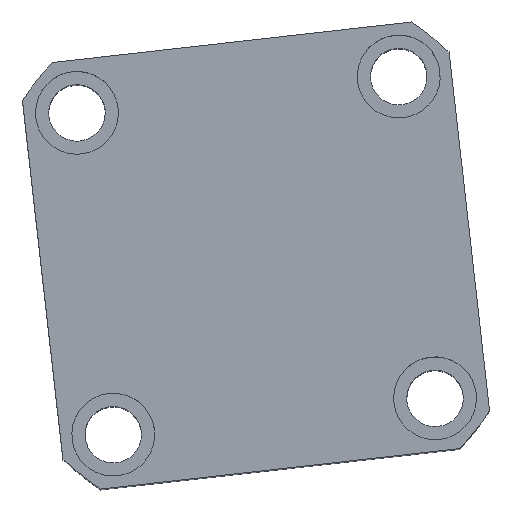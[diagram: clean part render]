
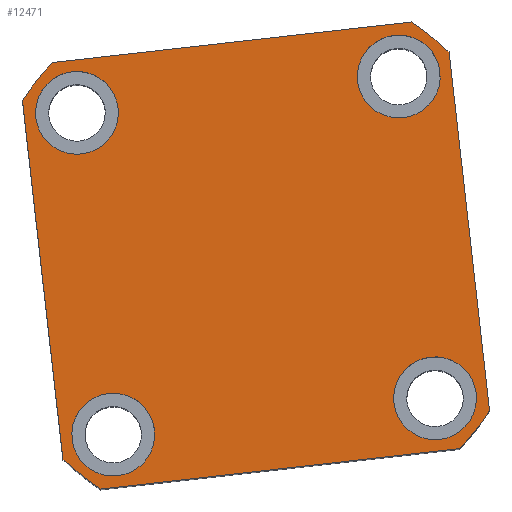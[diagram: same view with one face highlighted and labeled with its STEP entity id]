
A CAD part, top view. The second image highlights one B-rep face of the part: STEP entity #12471.
In plain terms, the highlighted planar face has unit normal (0, 0, 1) as drawn and (0, 0, -1) by its records, which use the part's own axes.
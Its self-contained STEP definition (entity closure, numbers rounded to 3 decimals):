
#153 = FACE_BOUND ( 'NONE', #226, .T. ) ;
#226 = EDGE_LOOP ( 'NONE', ( #14105, #8222 ) ) ;
#269 = VERTEX_POINT ( 'NONE', #11100 ) ;
#496 = CARTESIAN_POINT ( 'NONE',  ( -43., -43., 0. ) ) ;
#631 = CARTESIAN_POINT ( 'NONE',  ( 0., 0., 0. ) ) ;
#665 = ORIENTED_EDGE ( 'NONE', *, *, #5253, .F. ) ;
#790 = CARTESIAN_POINT ( 'NONE',  ( 54., 43., 0. ) ) ;
#981 = DIRECTION ( 'NONE',  ( 0., 0., -1. ) ) ;
#1061 = DIRECTION ( 'NONE',  ( -1., 0., 0. ) ) ;
#1132 = CARTESIAN_POINT ( 'NONE',  ( 0., 0., 0. ) ) ;
#1242 = VECTOR ( 'NONE', #13465, 1000. ) ;
#1370 = CIRCLE ( 'NONE', #7506, 11. ) ;
#1409 = DIRECTION ( 'NONE',  ( 0., 0., -1. ) ) ;
#1430 = CIRCLE ( 'NONE', #9126, 74.5 ) ;
#1567 = ORIENTED_EDGE ( 'NONE', *, *, #13617, .F. ) ;
#1679 = DIRECTION ( 'NONE',  ( -1., 0., 0. ) ) ;
#1680 = AXIS2_PLACEMENT_3D ( 'NONE', #5383, #13613, #6569 ) ;
#1704 = CARTESIAN_POINT ( 'NONE',  ( -57., 57., 0. ) ) ;
#1731 = VERTEX_POINT ( 'NONE', #11059 ) ;
#1755 = EDGE_LOOP ( 'NONE', ( #14846, #8956, #12083, #6180, #6536, #12827, #665, #3800 ) ) ;
#1775 = AXIS2_PLACEMENT_3D ( 'NONE', #1132, #9382, #2328 ) ;
#1796 = LINE ( 'NONE', #4475, #4945 ) ;
#1818 = DIRECTION ( 'NONE',  ( 1., 0., 0. ) ) ;
#1918 = CIRCLE ( 'NONE', #10865, 11. ) ;
#2198 = AXIS2_PLACEMENT_3D ( 'NONE', #3539, #11777, #4728 ) ;
#2327 = AXIS2_PLACEMENT_3D ( 'NONE', #15154, #8102, #1061 ) ;
#2328 = DIRECTION ( 'NONE',  ( 1., 0., 0. ) ) ;
#2337 = VERTEX_POINT ( 'NONE', #10131 ) ;
#2343 = ORIENTED_EDGE ( 'NONE', *, *, #14173, .F. ) ;
#2386 = CARTESIAN_POINT ( 'NONE',  ( -57., 47.971, 0. ) ) ;
#2475 = EDGE_LOOP ( 'NONE', ( #2343, #5442 ) ) ;
#2689 = AXIS2_PLACEMENT_3D ( 'NONE', #631, #8860, #1818 ) ;
#2702 = VERTEX_POINT ( 'NONE', #13007 ) ;
#2896 = FACE_BOUND ( 'NONE', #5711, .T. ) ;
#3007 = CIRCLE ( 'NONE', #9727, 74.5 ) ;
#3193 = CIRCLE ( 'NONE', #8780, 11. ) ;
#3392 = CARTESIAN_POINT ( 'NONE',  ( 0., 0., 0. ) ) ;
#3405 = CIRCLE ( 'NONE', #2198, 11. ) ;
#3463 = CARTESIAN_POINT ( 'NONE',  ( 0., 0., 0. ) ) ;
#3497 = CARTESIAN_POINT ( 'NONE',  ( 47.971, -57., 0. ) ) ;
#3539 = CARTESIAN_POINT ( 'NONE',  ( 43., 43., 0. ) ) ;
#3780 = VERTEX_POINT ( 'NONE', #10686 ) ;
#3800 = ORIENTED_EDGE ( 'NONE', *, *, #13327, .F. ) ;
#3916 = CIRCLE ( 'NONE', #1680, 11. ) ;
#4027 = CARTESIAN_POINT ( 'NONE',  ( 32., -43., 0. ) ) ;
#4125 = EDGE_CURVE ( 'NONE', #7261, #14725, #1370, .T. ) ;
#4373 = LINE ( 'NONE', #1704, #1242 ) ;
#4475 = CARTESIAN_POINT ( 'NONE',  ( -57., 57., 0. ) ) ;
#4508 = VERTEX_POINT ( 'NONE', #11728 ) ;
#4531 = EDGE_CURVE ( 'NONE', #14725, #7261, #3405, .T. ) ;
#4577 = DIRECTION ( 'NONE',  ( 1., 0., 0. ) ) ;
#4585 = EDGE_CURVE ( 'NONE', #2337, #11346, #13148, .T. ) ;
#4636 = DIRECTION ( 'NONE',  ( 1., 0., 0. ) ) ;
#4726 = ORIENTED_EDGE ( 'NONE', *, *, #14341, .F. ) ;
#4728 = DIRECTION ( 'NONE',  ( -1., 0., 0. ) ) ;
#4792 = EDGE_CURVE ( 'NONE', #6098, #13260, #1918, .T. ) ;
#4923 = VERTEX_POINT ( 'NONE', #12118 ) ;
#4945 = VECTOR ( 'NONE', #11530, 1000. ) ;
#5024 = CIRCLE ( 'NONE', #2327, 11. ) ;
#5048 = VERTEX_POINT ( 'NONE', #6329 ) ;
#5210 = DIRECTION ( 'NONE',  ( 0., 0., -1. ) ) ;
#5253 = EDGE_CURVE ( 'NONE', #2702, #14628, #12973, .T. ) ;
#5383 = CARTESIAN_POINT ( 'NONE',  ( -43., 43., 0. ) ) ;
#5442 = ORIENTED_EDGE ( 'NONE', *, *, #8445, .F. ) ;
#5592 = CIRCLE ( 'NONE', #10809, 74.5 ) ;
#5711 = EDGE_LOOP ( 'NONE', ( #13331, #7458 ) ) ;
#5718 = DIRECTION ( 'NONE',  ( 0., 0., -1. ) ) ;
#6034 = FACE_BOUND ( 'NONE', #2475, .T. ) ;
#6060 = EDGE_CURVE ( 'NONE', #13260, #6098, #12030, .T. ) ;
#6098 = VERTEX_POINT ( 'NONE', #9928 ) ;
#6128 = EDGE_LOOP ( 'NONE', ( #1567, #4726 ) ) ;
#6180 = ORIENTED_EDGE ( 'NONE', *, *, #8137, .F. ) ;
#6329 = CARTESIAN_POINT ( 'NONE',  ( -32., 43., 0. ) ) ;
#6478 = DIRECTION ( 'NONE',  ( 1., 0., 0. ) ) ;
#6509 = VERTEX_POINT ( 'NONE', #3497 ) ;
#6536 = ORIENTED_EDGE ( 'NONE', *, *, #8236, .F. ) ;
#6569 = DIRECTION ( 'NONE',  ( -1., 0., 0. ) ) ;
#6652 = DIRECTION ( 'NONE',  ( 0., 0., 1. ) ) ;
#6997 = PLANE ( 'NONE',  #1775 ) ;
#7261 = VERTEX_POINT ( 'NONE', #7405 ) ;
#7405 = CARTESIAN_POINT ( 'NONE',  ( 32., 43., 0. ) ) ;
#7458 = ORIENTED_EDGE ( 'NONE', *, *, #6060, .F. ) ;
#7506 = AXIS2_PLACEMENT_3D ( 'NONE', #12275, #5210, #13436 ) ;
#7518 = CARTESIAN_POINT ( 'NONE',  ( -32., -43., 0. ) ) ;
#8026 = CARTESIAN_POINT ( 'NONE',  ( 43., -43., 0. ) ) ;
#8102 = DIRECTION ( 'NONE',  ( 0., 0., -1. ) ) ;
#8137 = EDGE_CURVE ( 'NONE', #4923, #6509, #10393, .T. ) ;
#8222 = ORIENTED_EDGE ( 'NONE', *, *, #4531, .F. ) ;
#8236 = EDGE_CURVE ( 'NONE', #4508, #4923, #3007, .T. ) ;
#8445 = EDGE_CURVE ( 'NONE', #5048, #269, #5024, .T. ) ;
#8466 = CARTESIAN_POINT ( 'NONE',  ( -43., -43., 0. ) ) ;
#8727 = DIRECTION ( 'NONE',  ( 0., 0., -1. ) ) ;
#8780 = AXIS2_PLACEMENT_3D ( 'NONE', #8026, #981, #9222 ) ;
#8860 = DIRECTION ( 'NONE',  ( 0., 0., 1. ) ) ;
#8956 = ORIENTED_EDGE ( 'NONE', *, *, #4585, .F. ) ;
#9126 = AXIS2_PLACEMENT_3D ( 'NONE', #3392, #11629, #4577 ) ;
#9181 = EDGE_CURVE ( 'NONE', #14628, #4508, #1796, .T. ) ;
#9222 = DIRECTION ( 'NONE',  ( -1., 0., 0. ) ) ;
#9270 = EDGE_CURVE ( 'NONE', #11346, #3780, #1430, .T. ) ;
#9382 = DIRECTION ( 'NONE',  ( 0., 0., 1. ) ) ;
#9421 = DIRECTION ( 'NONE',  ( 0., 1., 0. ) ) ;
#9559 = FACE_BOUND ( 'NONE', #6128, .T. ) ;
#9669 = DIRECTION ( 'NONE',  ( -1., 0., 0. ) ) ;
#9727 = AXIS2_PLACEMENT_3D ( 'NONE', #13700, #6652, #14905 ) ;
#9928 = CARTESIAN_POINT ( 'NONE',  ( -54., -43., 0. ) ) ;
#10080 = CARTESIAN_POINT ( 'NONE',  ( 57., 47.971, 0. ) ) ;
#10131 = CARTESIAN_POINT ( 'NONE',  ( 57., -47.971, 0. ) ) ;
#10393 = LINE ( 'NONE', #12364, #12774 ) ;
#10686 = CARTESIAN_POINT ( 'NONE',  ( 47.971, 57., 0. ) ) ;
#10809 = AXIS2_PLACEMENT_3D ( 'NONE', #3463, #11695, #4636 ) ;
#10865 = AXIS2_PLACEMENT_3D ( 'NONE', #8466, #1409, #9669 ) ;
#11059 = CARTESIAN_POINT ( 'NONE',  ( 54., -43., 0. ) ) ;
#11100 = CARTESIAN_POINT ( 'NONE',  ( -54., 43., 0. ) ) ;
#11346 = VERTEX_POINT ( 'NONE', #10080 ) ;
#11530 = DIRECTION ( 'NONE',  ( 0., -1., 0. ) ) ;
#11629 = DIRECTION ( 'NONE',  ( 0., 0., 1. ) ) ;
#11695 = DIRECTION ( 'NONE',  ( 0., 0., 1. ) ) ;
#11728 = CARTESIAN_POINT ( 'NONE',  ( -57., -47.971, 0. ) ) ;
#11763 = AXIS2_PLACEMENT_3D ( 'NONE', #12779, #5718, #13955 ) ;
#11777 = DIRECTION ( 'NONE',  ( 0., 0., -1. ) ) ;
#11897 = VERTEX_POINT ( 'NONE', #4027 ) ;
#12030 = CIRCLE ( 'NONE', #15020, 11. ) ;
#12083 = ORIENTED_EDGE ( 'NONE', *, *, #15041, .F. ) ;
#12118 = CARTESIAN_POINT ( 'NONE',  ( -47.971, -57., 0. ) ) ;
#12275 = CARTESIAN_POINT ( 'NONE',  ( 43., 43., 0. ) ) ;
#12364 = CARTESIAN_POINT ( 'NONE',  ( -57., -57., 0. ) ) ;
#12471 = ADVANCED_FACE ( 'NONE', ( #2896, #9559, #153, #6034, #15067 ), #6997, .F. ) ;
#12774 = VECTOR ( 'NONE', #6478, 1000. ) ;
#12779 = CARTESIAN_POINT ( 'NONE',  ( 43., -43., 0. ) ) ;
#12827 = ORIENTED_EDGE ( 'NONE', *, *, #9181, .F. ) ;
#12973 = CIRCLE ( 'NONE', #2689, 74.5 ) ;
#13007 = CARTESIAN_POINT ( 'NONE',  ( -47.971, 57., 0. ) ) ;
#13021 = CIRCLE ( 'NONE', #11763, 11. ) ;
#13148 = LINE ( 'NONE', #14132, #15193 ) ;
#13260 = VERTEX_POINT ( 'NONE', #7518 ) ;
#13327 = EDGE_CURVE ( 'NONE', #3780, #2702, #4373, .T. ) ;
#13331 = ORIENTED_EDGE ( 'NONE', *, *, #4792, .F. ) ;
#13436 = DIRECTION ( 'NONE',  ( -1., 0., 0. ) ) ;
#13465 = DIRECTION ( 'NONE',  ( -1., 0., 0. ) ) ;
#13613 = DIRECTION ( 'NONE',  ( 0., 0., -1. ) ) ;
#13617 = EDGE_CURVE ( 'NONE', #11897, #1731, #13021, .T. ) ;
#13700 = CARTESIAN_POINT ( 'NONE',  ( 0., 0., 0. ) ) ;
#13955 = DIRECTION ( 'NONE',  ( -1., 0., 0. ) ) ;
#14105 = ORIENTED_EDGE ( 'NONE', *, *, #4125, .F. ) ;
#14132 = CARTESIAN_POINT ( 'NONE',  ( 57., 57., 0. ) ) ;
#14173 = EDGE_CURVE ( 'NONE', #269, #5048, #3916, .T. ) ;
#14341 = EDGE_CURVE ( 'NONE', #1731, #11897, #3193, .T. ) ;
#14628 = VERTEX_POINT ( 'NONE', #2386 ) ;
#14725 = VERTEX_POINT ( 'NONE', #790 ) ;
#14846 = ORIENTED_EDGE ( 'NONE', *, *, #9270, .F. ) ;
#14905 = DIRECTION ( 'NONE',  ( 1., 0., 0. ) ) ;
#15020 = AXIS2_PLACEMENT_3D ( 'NONE', #496, #8727, #1679 ) ;
#15041 = EDGE_CURVE ( 'NONE', #6509, #2337, #5592, .T. ) ;
#15067 = FACE_OUTER_BOUND ( 'NONE', #1755, .T. ) ;
#15154 = CARTESIAN_POINT ( 'NONE',  ( -43., 43., 0. ) ) ;
#15193 = VECTOR ( 'NONE', #9421, 1000. ) ;
